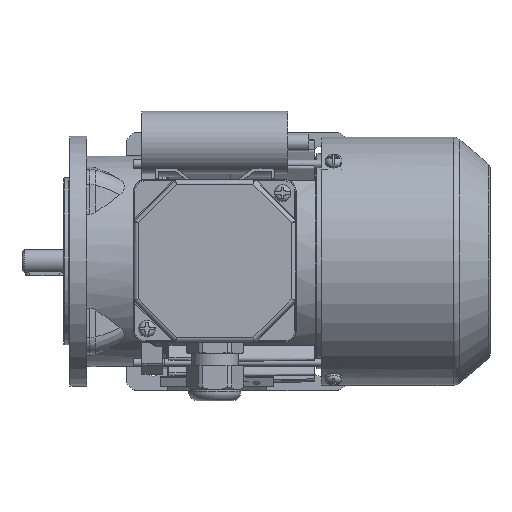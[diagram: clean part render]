
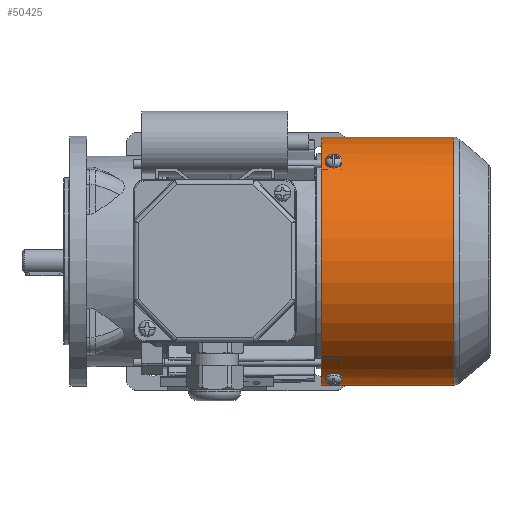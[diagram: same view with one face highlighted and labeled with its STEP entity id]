
A CAD part, top view. The second image highlights one B-rep face of the part: STEP entity #50425.
In plain terms, the highlighted cylindrical face has radius 59.6 mm (diameter 119.2 mm), a full revolution.
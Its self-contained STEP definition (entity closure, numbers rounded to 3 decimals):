
#928=B_SPLINE_CURVE_WITH_KNOTS('',3,(#74297,#74298,#74299,#74300,#74301,
#74302,#74303),.UNSPECIFIED.,.F.,.F.,(4,1,1,1,4),(0.,0.002,
0.004,0.006,0.008),
 .UNSPECIFIED.);
#930=B_SPLINE_CURVE_WITH_KNOTS('',3,(#74321,#74322,#74323,#74324,#74325,
#74326,#74327),.UNSPECIFIED.,.F.,.F.,(4,1,1,1,4),(0.,0.002,
0.004,0.006,0.008),
 .UNSPECIFIED.);
#931=B_SPLINE_CURVE_WITH_KNOTS('',3,(#74332,#74333,#74334,#74335,#74336,
#74337,#74338,#74339,#74340,#74341,#74342),.UNSPECIFIED.,.T.,.F.,(1,1,1,
1,1,1,1,1,1,1,1,1,1,1,1),(-0.005,-0.004,-0.002,
0.,0.002,0.004,0.005,0.007,
0.009,0.011,0.012,0.014,
0.016,0.018,0.019),.UNSPECIFIED.);
#932=B_SPLINE_CURVE_WITH_KNOTS('',3,(#74349,#74350,#74351,#74352,#74353,
#74354,#74355),.UNSPECIFIED.,.F.,.F.,(4,1,1,1,4),(0.,0.002,
0.004,0.006,0.008),
 .UNSPECIFIED.);
#933=B_SPLINE_CURVE_WITH_KNOTS('',3,(#74359,#74360,#74361,#74362,#74363,
#74364,#74365),.UNSPECIFIED.,.F.,.F.,(4,1,1,1,4),(0.,0.002,
0.004,0.006,0.008),
 .UNSPECIFIED.);
#1642=CYLINDRICAL_SURFACE('',#53359,59.6);
#2802=CIRCLE('',#52939,59.6);
#3001=CIRCLE('',#53354,59.6);
#3003=CIRCLE('',#53358,59.6);
#3004=CIRCLE('',#53360,59.6);
#3005=CIRCLE('',#53361,59.6);
#3006=CIRCLE('',#53362,59.6);
#9259=ORIENTED_EDGE('',*,*,#17355,.T.);
#9260=ORIENTED_EDGE('',*,*,#17352,.T.);
#9261=ORIENTED_EDGE('',*,*,#17360,.T.);
#9262=ORIENTED_EDGE('',*,*,#17358,.T.);
#9263=ORIENTED_EDGE('',*,*,#17361,.F.);
#9264=ORIENTED_EDGE('',*,*,#17362,.T.);
#9265=ORIENTED_EDGE('',*,*,#16835,.F.);
#9266=ORIENTED_EDGE('',*,*,#17363,.T.);
#9267=ORIENTED_EDGE('',*,*,#17364,.T.);
#9268=ORIENTED_EDGE('',*,*,#17365,.T.);
#9269=ORIENTED_EDGE('',*,*,#17366,.T.);
#16835=EDGE_CURVE('',#21464,#21464,#2802,.T.);
#17352=EDGE_CURVE('',#21826,#21829,#928,.T.);
#17355=EDGE_CURVE('',#21830,#21826,#3001,.F.);
#17358=EDGE_CURVE('',#21832,#21830,#930,.T.);
#17360=EDGE_CURVE('',#21829,#21832,#3003,.F.);
#17361=EDGE_CURVE('',#21834,#21834,#931,.T.);
#17362=EDGE_CURVE('',#21835,#21835,#3004,.F.);
#17363=EDGE_CURVE('',#21836,#21837,#3005,.F.);
#17364=EDGE_CURVE('',#21837,#21838,#932,.T.);
#17365=EDGE_CURVE('',#21838,#21839,#3006,.F.);
#17366=EDGE_CURVE('',#21839,#21836,#933,.T.);
#21464=VERTEX_POINT('',#72315);
#21826=VERTEX_POINT('',#74285);
#21829=VERTEX_POINT('',#74296);
#21830=VERTEX_POINT('',#74306);
#21832=VERTEX_POINT('',#74312);
#21834=VERTEX_POINT('',#74343);
#21835=VERTEX_POINT('',#74345);
#21836=VERTEX_POINT('',#74347);
#21837=VERTEX_POINT('',#74348);
#21838=VERTEX_POINT('',#74356);
#21839=VERTEX_POINT('',#74358);
#30449=EDGE_LOOP('',(#9259,#9260,#9261,#9262));
#30450=EDGE_LOOP('',(#9263));
#30451=EDGE_LOOP('',(#9264));
#30452=EDGE_LOOP('',(#9265));
#30453=EDGE_LOOP('',(#9266,#9267,#9268,#9269));
#32897=FACE_BOUND('',#30449,.T.);
#32898=FACE_BOUND('',#30450,.T.);
#32899=FACE_BOUND('',#30451,.T.);
#32900=FACE_BOUND('',#30452,.T.);
#32901=FACE_BOUND('',#30453,.T.);
#50425=ADVANCED_FACE('',(#32897,#32898,#32899,#32900,#32901),#1642,.T.);
#52939=AXIS2_PLACEMENT_3D('',#72314,#59376,#59377);
#53354=AXIS2_PLACEMENT_3D('',#74309,#60379,#60380);
#53358=AXIS2_PLACEMENT_3D('',#74330,#60388,#60389);
#53359=AXIS2_PLACEMENT_3D('',#74331,#60390,#60391);
#53360=AXIS2_PLACEMENT_3D('',#74344,#60392,#60393);
#53361=AXIS2_PLACEMENT_3D('',#74346,#60394,#60395);
#53362=AXIS2_PLACEMENT_3D('',#74357,#60396,#60397);
#59376=DIRECTION('',(-1.,0.,0.));
#59377=DIRECTION('',(0.,0.,1.));
#60379=DIRECTION('',(1.,0.,0.));
#60380=DIRECTION('',(0.,-0.866,0.5));
#60388=DIRECTION('',(-1.,0.,0.));
#60389=DIRECTION('',(0.,0.866,-0.5));
#60390=DIRECTION('',(-1.,0.,0.));
#60391=DIRECTION('',(0.,0.,1.));
#60392=DIRECTION('',(1.,0.,0.));
#60393=DIRECTION('',(0.,0.,-1.));
#60394=DIRECTION('',(1.,0.,0.));
#60395=DIRECTION('',(0.,0.,-1.));
#60396=DIRECTION('',(-1.,0.,0.));
#60397=DIRECTION('',(0.,0.,1.));
#72314=CARTESIAN_POINT('',(43.5,0.,0.));
#72315=CARTESIAN_POINT('',(43.5,0.,59.6));
#74285=CARTESIAN_POINT('',(47.,47.484,36.02));
#74296=CARTESIAN_POINT('',(52.,47.484,36.02));
#74297=CARTESIAN_POINT('',(47.,47.484,36.02));
#74298=CARTESIAN_POINT('',(47.,47.883,35.493));
#74299=CARTESIAN_POINT('',(47.542,48.645,34.446));
#74300=CARTESIAN_POINT('',(49.498,49.108,33.771));
#74301=CARTESIAN_POINT('',(51.458,48.646,34.444));
#74302=CARTESIAN_POINT('',(52.,47.883,35.493));
#74303=CARTESIAN_POINT('',(52.,47.484,36.02));
#74306=CARTESIAN_POINT('',(47.,46.437,37.36));
#74309=CARTESIAN_POINT('',(47.,0.,0.));
#74312=CARTESIAN_POINT('',(52.,46.437,37.36));
#74321=CARTESIAN_POINT('',(52.,46.437,37.36));
#74322=CARTESIAN_POINT('',(52.,46.023,37.874));
#74323=CARTESIAN_POINT('',(51.458,45.191,38.867));
#74324=CARTESIAN_POINT('',(49.502,44.648,39.479));
#74325=CARTESIAN_POINT('',(47.542,45.19,38.869));
#74326=CARTESIAN_POINT('',(47.,46.023,37.874));
#74327=CARTESIAN_POINT('',(47.,46.437,37.36));
#74330=CARTESIAN_POINT('',(52.,0.,0.));
#74331=CARTESIAN_POINT('',(-16.5,0.,0.));
#74332=CARTESIAN_POINT('',(51.265,6.547,-59.244));
#74333=CARTESIAN_POINT('',(49.5,5.818,-59.314));
#74334=CARTESIAN_POINT('',(47.737,6.547,-59.244));
#74335=CARTESIAN_POINT('',(47.007,8.294,-59.031));
#74336=CARTESIAN_POINT('',(47.736,10.037,-58.754));
#74337=CARTESIAN_POINT('',(49.5,10.756,-58.62));
#74338=CARTESIAN_POINT('',(51.261,10.039,-58.753));
#74339=CARTESIAN_POINT('',(51.993,8.299,-59.03));
#74340=CARTESIAN_POINT('',(51.265,6.547,-59.244));
#74341=CARTESIAN_POINT('',(49.5,5.818,-59.314));
#74342=CARTESIAN_POINT('',(47.737,6.547,-59.244));
#74343=CARTESIAN_POINT('',(49.5,6.061,-59.291));
#74344=CARTESIAN_POINT('',(106.809,0.,0.));
#74345=CARTESIAN_POINT('',(106.809,0.,-59.6));
#74346=CARTESIAN_POINT('',(47.,0.,0.));
#74347=CARTESIAN_POINT('',(47.,-55.573,21.536));
#74348=CARTESIAN_POINT('',(47.,-54.936,23.112));
#74349=CARTESIAN_POINT('',(47.,-54.936,23.112));
#74350=CARTESIAN_POINT('',(47.,-54.68,23.721));
#74351=CARTESIAN_POINT('',(47.542,-54.154,24.905));
#74352=CARTESIAN_POINT('',(49.498,-53.8,25.643));
#74353=CARTESIAN_POINT('',(51.458,-54.153,24.907));
#74354=CARTESIAN_POINT('',(52.,-54.68,23.721));
#74355=CARTESIAN_POINT('',(52.,-54.936,23.112));
#74356=CARTESIAN_POINT('',(52.,-54.936,23.112));
#74357=CARTESIAN_POINT('',(52.,0.,0.));
#74358=CARTESIAN_POINT('',(52.,-55.573,21.536));
#74359=CARTESIAN_POINT('',(52.,-55.573,21.536));
#74360=CARTESIAN_POINT('',(52.,-55.812,20.92));
#74361=CARTESIAN_POINT('',(51.458,-56.255,19.703));
#74362=CARTESIAN_POINT('',(49.502,-56.514,18.927));
#74363=CARTESIAN_POINT('',(47.542,-56.256,19.701));
#74364=CARTESIAN_POINT('',(47.,-55.812,20.92));
#74365=CARTESIAN_POINT('',(47.,-55.573,21.536));
